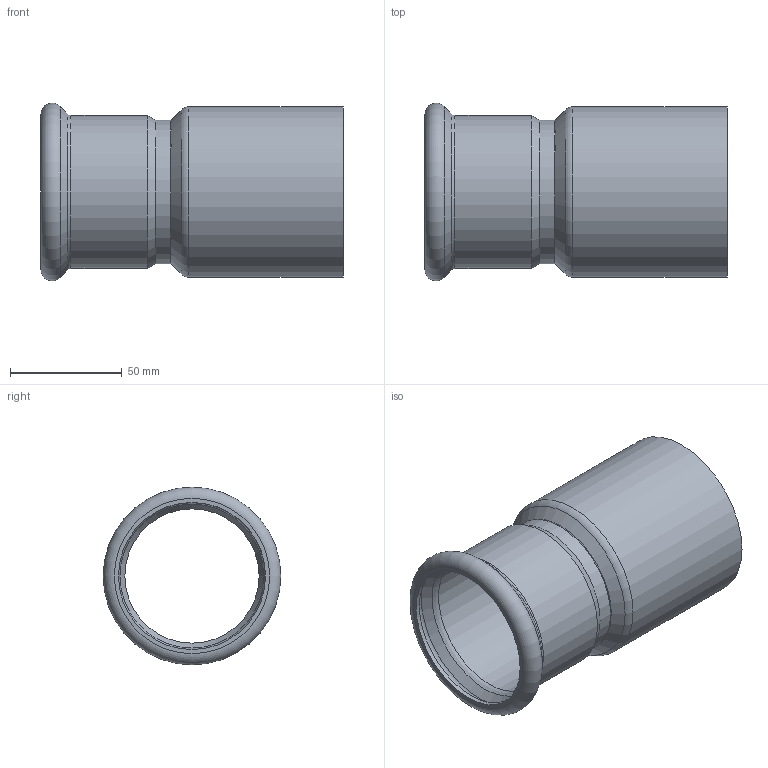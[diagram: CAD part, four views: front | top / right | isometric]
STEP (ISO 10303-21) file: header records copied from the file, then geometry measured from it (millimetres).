
FILE_DESCRIPTION((''),'2;1');
FILE_NAME('G:\Nirosan-Schmiedefeld\Technics\CAD\Bauteile VA\076\692437664(0).stp','2008-08-28T11:47:20',('herberg'),(''),'Autodesk Inventor 2009','Autodesk Inventor 2009','');
FILE_SCHEMA(('AUTOMOTIVE_DESIGN { 1 0 10303 214 1 1 1 1 }'));
Length unit declared in the file: millimetre
Products named in the file (3): 692437664(0); R_692437664(0); HM_6924364(0)
Assembly tree (2 placements, depth 2):
  692437664(0)
    R_692437664(0)
    HM_6924364(0)
Bounding box: 135 x 79.4 x 79.4 mm (x, y, z)
Volume: 63805.7 mm3; surface area: 65466.3 mm2
Topology: 2 solids, 2 shells, 25 faces, 46 edges, 26 vertices
Faces by surface type: cylinder 8, cone 6, plane 5, torus 3, bspline 3
Full cylindrical faces by diameter (mm): 60 x2, 64 x1, 64.4 x1, 65.7 x1, 68.4 x1, 72.1 x1, 76.1 x1
Entity records: 714 total; most frequent: CARTESIAN_POINT 212, DIRECTION 104, AXIS2_PLACEMENT_3D 52, ORIENTED_EDGE 50, EDGE_LOOP 50, VERTEX_POINT 25, CIRCLE 25, EDGE_CURVE 25
